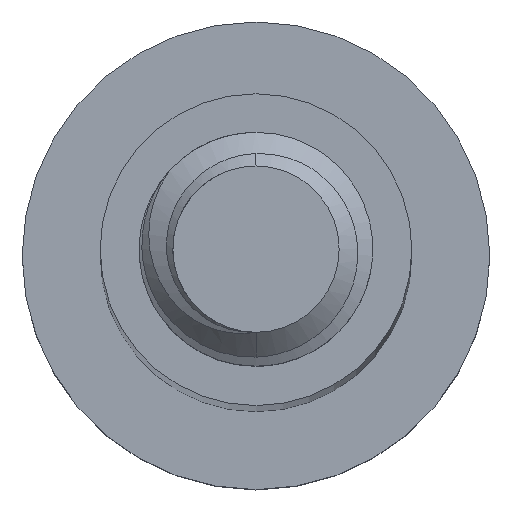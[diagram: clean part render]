
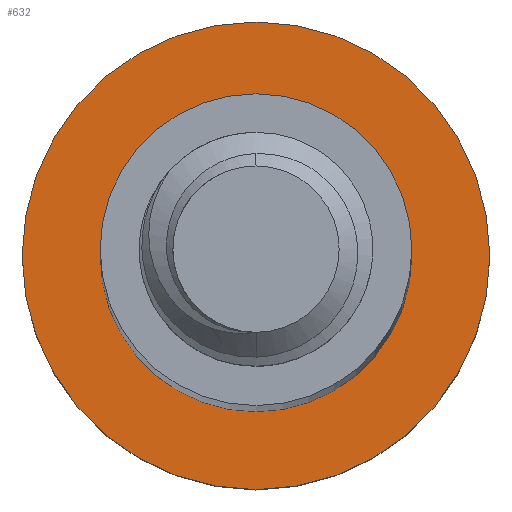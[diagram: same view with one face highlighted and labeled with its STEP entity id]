
A CAD part, top view. The second image highlights one B-rep face of the part: STEP entity #632.
In plain terms, the highlighted planar face has unit normal (0, 0, 1).
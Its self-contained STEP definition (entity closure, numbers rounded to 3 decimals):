
#100 = DIRECTION ( 'NONE',  ( -1., 0., 0. ) ) ;
#152 = VERTEX_POINT ( 'NONE', #1665 ) ;
#187 = EDGE_CURVE ( 'NONE', #1611, #1724, #1117, .T. ) ;
#225 = AXIS2_PLACEMENT_3D ( 'NONE', #306, #1368, #1001 ) ;
#265 = CARTESIAN_POINT ( 'NONE',  ( 2., 0., -45. ) ) ;
#306 = CARTESIAN_POINT ( 'NONE',  ( 0., 0., -45. ) ) ;
#364 = ORIENTED_EDGE ( 'NONE', *, *, #1911, .T. ) ;
#487 = EDGE_CURVE ( 'NONE', #1733, #152, #894, .T. ) ;
#632 = ADVANCED_FACE ( 'NONE', ( #1164, #1872 ), #1715, .F. ) ;
#659 = EDGE_LOOP ( 'NONE', ( #786, #364 ) ) ;
#728 = CIRCLE ( 'NONE', #1007, 2. ) ;
#786 = ORIENTED_EDGE ( 'NONE', *, *, #187, .T. ) ;
#795 = DIRECTION ( 'NONE',  ( 0., 0., -1. ) ) ;
#806 = CARTESIAN_POINT ( 'NONE',  ( 0., 0., -45. ) ) ;
#894 = CIRCLE ( 'NONE', #941, 3. ) ;
#896 = DIRECTION ( 'NONE',  ( -1., 0., 0. ) ) ;
#899 = CIRCLE ( 'NONE', #1890, 3. ) ;
#941 = AXIS2_PLACEMENT_3D ( 'NONE', #1382, #2174, #1020 ) ;
#949 = CARTESIAN_POINT ( 'NONE',  ( 3., 0., -45. ) ) ;
#1001 = DIRECTION ( 'NONE',  ( -1., 0., 0. ) ) ;
#1007 = AXIS2_PLACEMENT_3D ( 'NONE', #1749, #1085, #896 ) ;
#1020 = DIRECTION ( 'NONE',  ( -1., 0., 0. ) ) ;
#1053 = EDGE_LOOP ( 'NONE', ( #1975, #1284 ) ) ;
#1085 = DIRECTION ( 'NONE',  ( 0., 0., -1. ) ) ;
#1115 = CARTESIAN_POINT ( 'NONE',  ( 0., 0., -45. ) ) ;
#1117 = CIRCLE ( 'NONE', #1745, 2. ) ;
#1164 = FACE_BOUND ( 'NONE', #659, .T. ) ;
#1284 = ORIENTED_EDGE ( 'NONE', *, *, #1674, .F. ) ;
#1368 = DIRECTION ( 'NONE',  ( 0., 0., -1. ) ) ;
#1382 = CARTESIAN_POINT ( 'NONE',  ( 0., 0., -45. ) ) ;
#1611 = VERTEX_POINT ( 'NONE', #1626 ) ;
#1626 = CARTESIAN_POINT ( 'NONE',  ( -2., 0., -45. ) ) ;
#1665 = CARTESIAN_POINT ( 'NONE',  ( -3., 0., -45. ) ) ;
#1674 = EDGE_CURVE ( 'NONE', #152, #1733, #899, .T. ) ;
#1715 = PLANE ( 'NONE',  #225 ) ;
#1724 = VERTEX_POINT ( 'NONE', #265 ) ;
#1733 = VERTEX_POINT ( 'NONE', #949 ) ;
#1745 = AXIS2_PLACEMENT_3D ( 'NONE', #1115, #2193, #100 ) ;
#1749 = CARTESIAN_POINT ( 'NONE',  ( 0., 0., -45. ) ) ;
#1872 = FACE_OUTER_BOUND ( 'NONE', #1053, .T. ) ;
#1890 = AXIS2_PLACEMENT_3D ( 'NONE', #806, #795, #2152 ) ;
#1911 = EDGE_CURVE ( 'NONE', #1724, #1611, #728, .T. ) ;
#1975 = ORIENTED_EDGE ( 'NONE', *, *, #487, .F. ) ;
#2152 = DIRECTION ( 'NONE',  ( -1., 0., 0. ) ) ;
#2174 = DIRECTION ( 'NONE',  ( 0., 0., -1. ) ) ;
#2193 = DIRECTION ( 'NONE',  ( 0., 0., -1. ) ) ;
